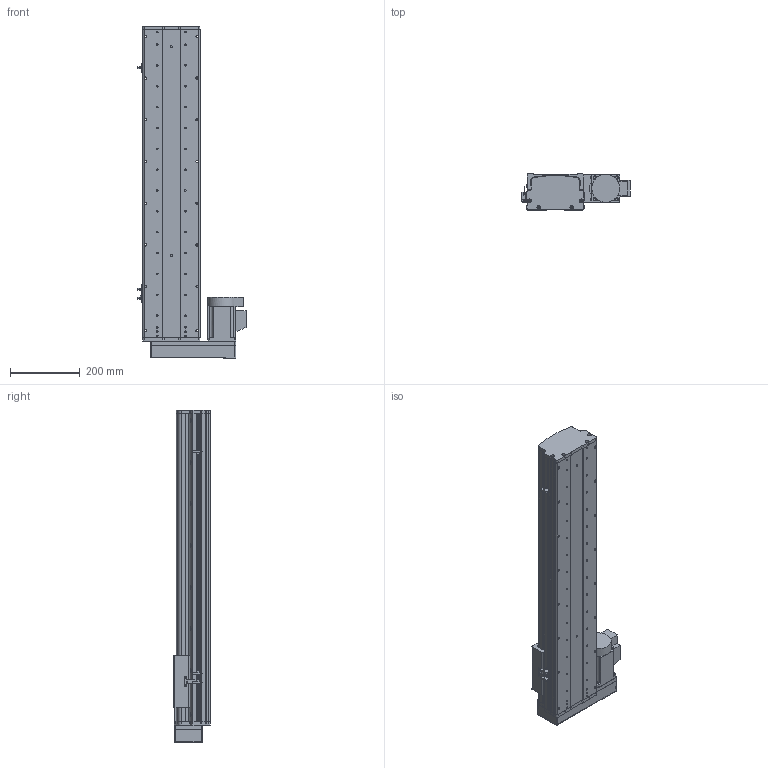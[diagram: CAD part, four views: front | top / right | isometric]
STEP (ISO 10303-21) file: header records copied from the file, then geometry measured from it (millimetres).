
FILE_DESCRIPTION (( 'STEP AP214' ), '1' );
FILE_NAME ('KSD165S-S650-ML-CM .STEP', '2017-10-17T08:55:04', ( '微软用户' ), ( '微软中国' ), 'SwSTEP 2.0', 'SolidWorks 2014', '' );
FILE_SCHEMA (( 'AUTOMOTIVE_DESIGN' ));
Length unit declared in the file: millimetre
Products named in the file (16): 165宽模组保护罩左右折; KSD165模组底板-650行程-最新; KSD165模组-防尘盖1-650行程-最新版; KSD165耀郪-佪裝-滅袉菜-3 -; KSD165耀郪-佪裝-滅袉菜-1; U倰嫖萇假蚾璃; KSD165耀郪-綴傷啣1; KSD165模组-丝杆滑动座-最新版; KSD165S-S650-ML-CM  ; 覜茼え68遵圉猾敕; U倰嫖萇EEㄜSX672; 拸秶雄ん750W侜督萇儂; KSD165模组-丝杆上下左右折前端板; HTPA26S5M250-A-H8丝杆用(内径14）; HTPA26S5M250-A-H8 750W萇儂蚚; 165宽模组马达安装板连板左右折丝杆
Assembly tree (19 placements, depth 2):
  KSD165S-S650-ML-CM  
    KSD165模组-丝杆滑动座-最新版
    KSD165耀郪-綴傷啣1
    U倰嫖萇假蚾璃  x3
    KSD165耀郪-佪裝-滅袉菜-1
    KSD165耀郪-佪裝-滅袉菜-3 -
    KSD165模组-防尘盖1-650行程-最新版
    KSD165模组底板-650行程-最新
    165宽模组保护罩左右折
    165宽模组马达安装板连板左右折丝杆
    HTPA26S5M250-A-H8 750W萇儂蚚
    HTPA26S5M250-A-H8丝杆用(内径14）
    KSD165模组-丝杆上下左右折前端板
    拸秶雄ん750W侜督萇儂
    U倰嫖萇EEㄜSX672  x3
    覜茼え68遵圉猾敕
Bounding box: 311.2 x 104 x 955.5 mm (x, y, z)
Volume: 6290481.8 mm3; surface area: 1456793.8 mm2
Topology: 20 solids, 20 shells, 1809 faces, 5132 edges, 3355 vertices
Faces by surface type: cylinder 1167, plane 541, cone 101
Entity records: 59283 total; most frequent: CARTESIAN_POINT 12379, DIRECTION 9575, ORIENTED_EDGE 8952, EDGE_CURVE 4476, AXIS2_PLACEMENT_3D 3751, VERTEX_POINT 2947, CIRCLE 2140, LINE 2073
